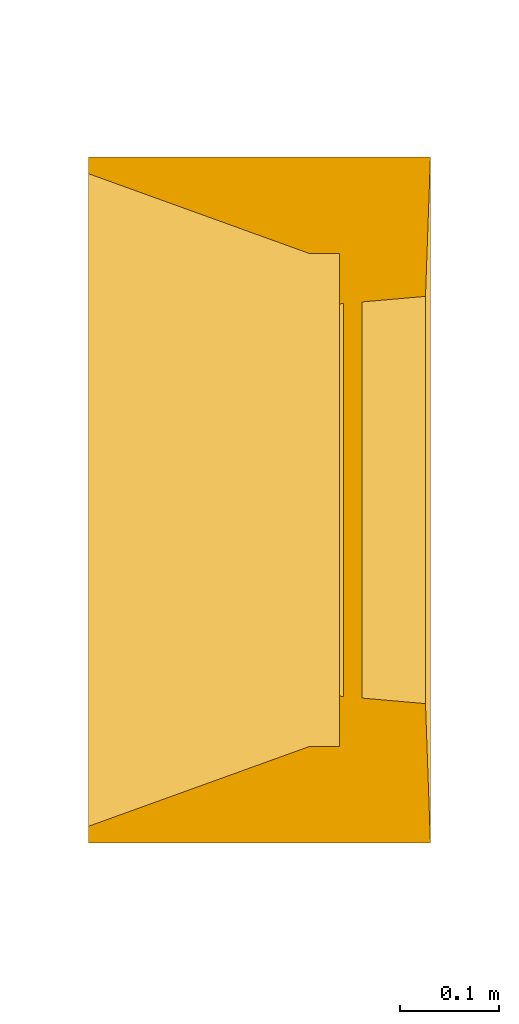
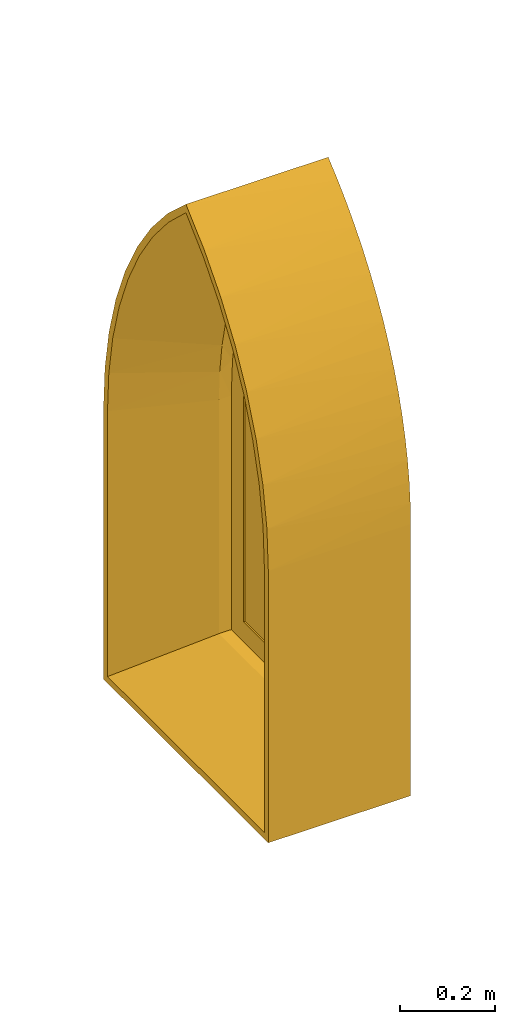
# One storey, part 5 of 6: 1 window.
"""IFC2X3 building model written with IfcOpenShell, lengths in metres."""

from ifc_helpers import new_model, entity, si_unit, converted_unit, derived_unit, direction, frame, origin, place, context, subcontext, project, spatial, faceted_brep, source, transform, mapped, material, material_list, type_object, type_shapes, element, save


model = new_model("IFC2X3")

# Units and contexts
model_context = context("Model", 3, precision=1e-05, world=origin(), true_north=direction((6.12303176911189e-17, 1.0)))
plan_context = context("Plan", 3, precision=1e-05, world=origin(), true_north=direction((6.12303176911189e-17, 1.0)))
body_context = subcontext(model_context, "Body", "Model", "MODEL_VIEW")
ifc_project = project(units=[si_unit("LENGTHUNIT", "METRE"), si_unit("AREAUNIT", "SQUARE_METRE"), si_unit("VOLUMEUNIT", "CUBIC_METRE"), converted_unit("PLANEANGLEUNIT", "DEGREE", entity("IfcRatioMeasure", 0.0174532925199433), si_unit("PLANEANGLEUNIT", "RADIAN"), dimensions=[0, 0, 0, 0, 0, 0, 0]), si_unit("MASSUNIT", "GRAM", prefix="KILO"), derived_unit("MASSDENSITYUNIT", [(si_unit("MASSUNIT", "GRAM", prefix="KILO"), 1), (si_unit("LENGTHUNIT", "METRE"), -3)]), derived_unit("MOMENTOFINERTIAUNIT", [(si_unit("LENGTHUNIT", "METRE"), 4)]), si_unit("TIMEUNIT", "SECOND"), si_unit("FREQUENCYUNIT", "HERTZ"), si_unit("THERMODYNAMICTEMPERATUREUNIT", "DEGREE_CELSIUS"), derived_unit("THERMALTRANSMITTANCEUNIT", [(si_unit("MASSUNIT", "GRAM", prefix="KILO"), 1), (si_unit("THERMODYNAMICTEMPERATUREUNIT", "KELVIN"), -1), (si_unit("TIMEUNIT", "SECOND"), -3)]), derived_unit("VOLUMETRICFLOWRATEUNIT", [(si_unit("LENGTHUNIT", "METRE"), 3), (si_unit("TIMEUNIT", "SECOND"), -1)]), derived_unit("MASSFLOWRATEUNIT", [(si_unit("MASSUNIT", "GRAM", prefix="KILO"), 1), (si_unit("TIMEUNIT", "SECOND"), -1)]), derived_unit("ROTATIONALFREQUENCYUNIT", [(si_unit("TIMEUNIT", "SECOND"), -1)]), si_unit("ELECTRICCURRENTUNIT", "AMPERE"), si_unit("ELECTRICVOLTAGEUNIT", "VOLT"), si_unit("POWERUNIT", "WATT"), si_unit("FORCEUNIT", "NEWTON", prefix="KILO"), si_unit("ILLUMINANCEUNIT", "LUX"), si_unit("LUMINOUSFLUXUNIT", "LUMEN"), si_unit("LUMINOUSINTENSITYUNIT", "CANDELA"), derived_unit("USERDEFINED", [(si_unit("MASSUNIT", "GRAM", prefix="KILO"), -1), (si_unit("LENGTHUNIT", "METRE"), -2), (si_unit("TIMEUNIT", "SECOND"), 3), (si_unit("LUMINOUSFLUXUNIT", "LUMEN"), 1)]), derived_unit("SOUNDPOWERUNIT", [(si_unit("MASSUNIT", "GRAM", prefix="KILO"), 1), (si_unit("LENGTHUNIT", "METRE"), 2), (si_unit("TIMEUNIT", "SECOND"), -3)]), derived_unit("SOUNDPRESSUREUNIT", [(si_unit("MASSUNIT", "GRAM", prefix="KILO"), 1), (si_unit("LENGTHUNIT", "METRE"), -1), (si_unit("TIMEUNIT", "SECOND"), -2)]), derived_unit("LINEARVELOCITYUNIT", [(si_unit("LENGTHUNIT", "METRE"), 1), (si_unit("TIMEUNIT", "SECOND"), -1)]), si_unit("PRESSUREUNIT", "PASCAL"), derived_unit("USERDEFINED", [(si_unit("LENGTHUNIT", "METRE"), -2), (si_unit("MASSUNIT", "GRAM", prefix="KILO"), 1), (si_unit("TIMEUNIT", "SECOND"), -2)]), derived_unit("LINEARFORCEUNIT", [(si_unit("MASSUNIT", "GRAM", prefix="KILO"), 1), (si_unit("LENGTHUNIT", "METRE"), 1), (si_unit("TIMEUNIT", "SECOND"), -2), (si_unit("LENGTHUNIT", "METRE"), -1)]), derived_unit("PLANARFORCEUNIT", [(si_unit("MASSUNIT", "GRAM", prefix="KILO"), 1), (si_unit("LENGTHUNIT", "METRE"), 1), (si_unit("TIMEUNIT", "SECOND"), -2), (si_unit("LENGTHUNIT", "METRE"), -2)])], contexts=[model_context, plan_context])

# Site, building, storey
site_placement = place(None, frame((-11.0823275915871, 23.8300534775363, 0.0)))
site = spatial("IfcSite", under=ifc_project, at=site_placement, Name="Default", CompositionType="ELEMENT")
building_placement = place(site_placement, origin())
building = spatial("IfcBuilding", under=site, at=building_placement, Name="Englische Kirche", CompositionType="ELEMENT")
storey_placement = place(building_placement, origin())
storey = spatial("IfcBuildingStorey", under=building, at=storey_placement, Name="Ebene 0 Nave FFL Phase 1 1864", CompositionType="ELEMENT", Elevation=0.0)

# Window
ifc_material_1 = material(Name="Glas - Stained - Pulpit")
ifc_material_2 = material(Name="Default")
ifc_material_list_1 = material_list([ifc_material_1, ifc_material_2])
ifc_material_list_2 = material_list([ifc_material_1, ifc_material_2])
window_style = type_object("IfcWindowStyle", Name="Arched_Window_window_family_pulpit:Arched_Window_stained_pulpit", ConstructionType="NOTDEFINED", OperationType="NOTDEFINED", ParameterTakesPrecedence=False, Sizeable=False, material=ifc_material_list_2)
shared_shape = source(origin(), body_context, "Body", "Brep", [
    faceted_brep([(0.639287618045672, 0.224475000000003, 0.793732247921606), (0.624604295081, 0.224475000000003, 0.886437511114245), (0.600310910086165, 0.224475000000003, 0.977100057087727), (0.566673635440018, 0.224475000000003, 1.06472653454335), (0.524061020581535, 0.224475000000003, 1.14835685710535), (0.472939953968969, 0.224475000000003, 1.2270747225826), (0.413870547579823, 0.224475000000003, 1.30001765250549), (0.347500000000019, 0.224475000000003, 1.36638644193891), (0.281129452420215, 0.224475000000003, 1.30001765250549), (0.222060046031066, 0.224475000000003, 1.2270747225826), (0.170938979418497, 0.224475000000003, 1.14835685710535), (0.128326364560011, 0.224475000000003, 1.06472653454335), (0.0946890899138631, 0.224475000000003, 0.97710005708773), (0.0703957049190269, 0.224475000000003, 0.886437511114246), (0.055712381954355, 0.224475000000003, 0.793732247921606), (0.0508000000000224, 0.224475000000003, 0.700000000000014), (0.0508000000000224, 0.224475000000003, 0.0508000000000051), (0.644200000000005, 0.224475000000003, 0.0508000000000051), (0.644200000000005, 0.224475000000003, 0.700000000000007), (0.644200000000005, 0.243524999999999, 0.0508000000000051), (0.0508000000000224, 0.243524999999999, 0.0508000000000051), (0.0508000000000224, 0.243524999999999, 0.700000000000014), (0.644200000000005, 0.243524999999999, 0.700000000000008), (0.624604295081, 0.243524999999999, 0.886437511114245), (0.639287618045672, 0.243524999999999, 0.793732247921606), (0.055712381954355, 0.243524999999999, 0.793732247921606), (0.0703957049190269, 0.243524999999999, 0.886437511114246), (0.0946890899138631, 0.243524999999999, 0.97710005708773), (0.128326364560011, 0.243524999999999, 1.06472653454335), (0.170938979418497, 0.243524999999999, 1.14835685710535), (0.222060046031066, 0.243524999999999, 1.2270747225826), (0.281129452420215, 0.243524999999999, 1.30001765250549), (0.347500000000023, 0.243524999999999, 1.36638644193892), (0.413870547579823, 0.243524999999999, 1.30001765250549), (0.472939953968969, 0.243524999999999, 1.2270747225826), (0.524061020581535, 0.243524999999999, 1.14835685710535), (0.566673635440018, 0.243524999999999, 1.06472653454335), (0.600310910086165, 0.243524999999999, 0.977100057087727)], [[[0, 1, 2, 3, 4, 5, 6, 7, 8, 9, 10, 11, 12, 13, 14, 15, 16, 17, 18]], [[19, 17, 16, 20]], [[20, 16, 15, 21]], [[22, 18, 17, 19]], [[23, 24, 22, 19, 20, 21, 25, 26, 27, 28, 29, 30, 31, 32, 33, 34, 35, 36, 37]], [[26, 25, 14, 13]], [[27, 26, 13, 12]], [[28, 27, 12, 11]], [[15, 14, 25, 21]], [[30, 29, 10, 9]], [[31, 30, 9, 8]], [[32, 31, 8, 7]], [[10, 29, 28, 11]], [[34, 33, 6, 5]], [[35, 34, 5, 4]], [[36, 35, 4, 3]], [[7, 6, 33, 32]], [[23, 37, 2, 1]], [[24, 23, 1, 0]], [[22, 24, 0, 18]], [[2, 37, 36, 3]]]),
    faceted_brep([(0.656333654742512, -0.034, 0.900911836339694), (0.671900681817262, -0.034, 0.907941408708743), (0.629148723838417, -0.034, 0.998395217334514), (0.689207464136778, -0.034, 0.804610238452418), (0.672774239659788, -0.034, 0.801053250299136), (0.694999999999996, -0.034, 0.700000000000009), (0.678276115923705, -0.034, 0.700000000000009), (0.67827611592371, -0.034, 0.0167238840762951), (0.695000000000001, -0.034, 0.0), (0.0, -0.034, 0.0), (0.016723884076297, -0.034, 0.0167238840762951), (0.0, -0.034, 0.700000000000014), (0.0167238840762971, -0.034, 0.700000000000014), (0.0222257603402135, -0.034, 0.801053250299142), (0.00579253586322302, -0.034, 0.804610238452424), (0.0386663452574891, -0.034, 0.900911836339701), (0.0230993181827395, -0.034, 0.90794140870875), (0.0658512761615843, -0.034, 0.998395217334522), (0.0517087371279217, -0.034, 1.00873008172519), (0.103459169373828, -0.034, 1.09235093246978), (0.0912709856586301, -0.034, 1.10574391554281), (0.151045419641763, -0.034, 1.18166822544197), (0.141302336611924, -0.034, 1.1977967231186), (0.208047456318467, -0.034, 1.26529117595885), (0.201191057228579, -0.034, 1.28376297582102), (0.273791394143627, -0.034, 1.34223118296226), (0.270204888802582, -0.034, 1.36259156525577), (0.347500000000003, -0.034, 1.41157865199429), (0.347499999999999, -0.034, 1.43331865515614), (0.42479511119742, -0.034, 1.36259156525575), (0.421208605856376, -0.034, 1.34223118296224), (0.493808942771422, -0.034, 1.28376297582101), (0.486952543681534, -0.034, 1.26529117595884), (0.553697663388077, -0.034, 1.19779672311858), (0.543954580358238, -0.034, 1.18166822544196), (0.603729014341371, -0.034, 1.1057439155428), (0.591540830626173, -0.034, 1.09235093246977), (0.643291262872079, -0.034, 1.00873008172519), (0.0978488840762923, 0.190524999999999, 0.0978488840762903), (0.0978488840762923, 0.190524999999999, 0.700000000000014), (0.597151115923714, 0.190524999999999, 0.0978488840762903), (0.597151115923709, 0.190524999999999, 0.700000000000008), (0.695000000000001, 0.312600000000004, 0.0), (0.694999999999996, 0.312600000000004, 0.700000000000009), (0.0, 0.312600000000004, 0.0), (0.0, 0.312600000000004, 0.700000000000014), (0.591790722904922, 0.220524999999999, 0.795290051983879), (0.57577718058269, 0.220524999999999, 0.889377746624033), (0.540506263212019, 0.220524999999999, 0.795751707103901), (0.546266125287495, 0.220524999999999, 0.700000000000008), (0.59715111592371, 0.220524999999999, 0.700000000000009), (0.523309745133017, 0.220524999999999, 0.890122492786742), (0.549312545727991, 0.220524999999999, 0.981075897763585), (0.494924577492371, 0.220524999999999, 0.981751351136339), (0.512730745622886, 0.220524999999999, 1.06922747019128), (0.455760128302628, 0.220524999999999, 1.06931682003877), (0.466493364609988, 0.220524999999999, 1.15272017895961), (0.40638122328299, 0.220524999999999, 1.15155603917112), (0.411183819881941, 0.220524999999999, 1.23050052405), (0.347500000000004, 0.220524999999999, 1.22728296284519), (0.3475, 0.220524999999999, 1.30158708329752), (0.283816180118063, 0.220524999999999, 1.23050052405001), (0.288618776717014, 0.220524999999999, 1.15155603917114), (0.228506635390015, 0.220524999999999, 1.15272017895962), (0.239239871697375, 0.220524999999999, 1.06931682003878), (0.182269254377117, 0.220524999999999, 1.06922747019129), (0.200075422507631, 0.220524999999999, 0.98175135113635), (0.14568745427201, 0.220524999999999, 0.981075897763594), (0.171690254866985, 0.220524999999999, 0.890122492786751), (0.119222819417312, 0.220524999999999, 0.889377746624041), (0.154493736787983, 0.220524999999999, 0.795751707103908), (0.10320927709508, 0.220524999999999, 0.795290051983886), (0.148733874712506, 0.220524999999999, 0.700000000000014), (0.0978488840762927, 0.220524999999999, 0.700000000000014), (0.148733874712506, 0.220524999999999, 0.148733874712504), (0.0978488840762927, 0.220524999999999, 0.0978488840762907), (0.546266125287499, 0.220524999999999, 0.148733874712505), (0.597151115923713, 0.220524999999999, 0.0978488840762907), (0.141109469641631, 0.307672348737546, 0.141109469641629), (0.141109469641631, 0.307672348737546, 0.700000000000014), (0.553890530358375, 0.307672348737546, 0.141109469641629), (0.553890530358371, 0.307672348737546, 0.700000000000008), (0.693550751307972, 0.312600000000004, 0.752385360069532), (0.547902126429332, 0.307672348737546, 0.798092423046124), (0.68920743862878, 0.312600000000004, 0.804610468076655), (0.500527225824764, 0.307672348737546, 0.988471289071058), (0.603728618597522, 0.312600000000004, 1.10574475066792), (0.624851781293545, 0.312600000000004, 1.05778499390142), (0.68198334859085, 0.312600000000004, 0.856515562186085), (0.5300258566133, 0.307672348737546, 0.894727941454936), (0.67190058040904, 0.312600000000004, 0.907941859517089), (0.64329103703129, 0.312600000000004, 1.00873073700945), (0.658989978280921, 0.312600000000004, 0.958732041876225), (0.45984435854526, 0.307672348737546, 1.07793015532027), (0.493808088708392, 0.312600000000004, 1.2837640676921), (0.524941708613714, 0.312600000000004, 1.241609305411), (0.347500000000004, 0.309230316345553, 1.30349756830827), (0.460391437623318, 0.312600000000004, 1.32413303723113), (0.387124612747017, 0.312600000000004, 1.39902546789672), (0.424793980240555, 0.312600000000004, 1.36259272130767), (0.347500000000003, 0.310878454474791, 1.36840536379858), (0.347500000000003, 0.312600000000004, 1.43331865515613), (0.553697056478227, 0.312600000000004, 1.1977977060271), (0.579986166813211, 0.312600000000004, 1.15246329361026), (0.40858149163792, 0.307672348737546, 1.16177586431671), (0.347500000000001, 0.307672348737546, 1.23876310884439), (0.307874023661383, 0.312600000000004, 1.39902422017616), (0.234607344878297, 0.312600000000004, 1.32413164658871), (0.170057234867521, 0.312600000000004, 1.24160778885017), (0.201190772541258, 0.312600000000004, 1.28376261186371), (0.115012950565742, 0.312600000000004, 1.15246166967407), (0.270204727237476, 0.312600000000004, 1.36259140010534), (0.14130197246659, 0.312600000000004, 1.19779613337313), (0.0912705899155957, 0.312600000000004, 1.10574308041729), (0.0701475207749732, 0.312600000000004, 1.05778328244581), (0.0517083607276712, 0.312600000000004, 1.00872898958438), (0.0130163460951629, 0.312600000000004, 0.856513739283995), (0.0360095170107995, 0.312600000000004, 0.958730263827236), (0.00144914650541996, 0.312600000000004, 0.752383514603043), (0.0230990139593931, 0.312600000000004, 0.907940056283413), (0.00579235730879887, 0.312600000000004, 0.804608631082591), (0.235155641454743, 0.307672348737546, 1.07793015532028), (0.286418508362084, 0.307672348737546, 1.16177586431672), (0.164974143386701, 0.307672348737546, 0.894727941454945), (0.14709787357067, 0.307672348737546, 0.798092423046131), (0.194472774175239, 0.307672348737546, 0.988471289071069), (0.593907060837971, 0.190524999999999, 0.774176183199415), (0.517281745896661, 0.190524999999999, 1.05964299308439), (0.545740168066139, 0.190524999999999, 0.991066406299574), (0.584199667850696, 0.190524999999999, 0.847785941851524), (0.568103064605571, 0.190524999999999, 0.920267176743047), (0.482945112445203, 0.190524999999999, 1.1254732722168), (0.442992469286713, 0.190524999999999, 1.18805455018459), (0.347499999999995, 0.134725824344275, 1.32974088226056), (0.347500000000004, 0.190524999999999, 1.30158708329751), (0.397728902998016, 0.190524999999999, 1.24690894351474), (0.347499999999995, 0.0786870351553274, 1.35742467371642), (0.347499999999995, 0.0224390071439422, 1.38468855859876), (0.297271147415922, 0.190524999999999, 1.24690900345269), (0.212054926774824, 0.190524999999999, 1.12547334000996), (0.177718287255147, 0.190524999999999, 1.05964306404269), (0.252007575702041, 0.190524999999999, 1.18805461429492), (0.149259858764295, 0.190524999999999, 0.991066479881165), (0.126896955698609, 0.190524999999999, 0.920267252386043), (0.110800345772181, 0.190524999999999, 0.847786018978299), (0.101092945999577, 0.190524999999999, 0.774176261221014), (0.347499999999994, 0.264096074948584, 1.23303996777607)], [[[0, 1, 2]], [[0, 3, 1]], [[4, 3, 0]], [[5, 3, 4]], [[4, 6, 5]], [[6, 7, 5]], [[8, 5, 7]], [[7, 9, 8]], [[7, 10, 9]], [[11, 9, 10]], [[12, 11, 10]], [[12, 13, 11]], [[11, 13, 14]], [[13, 15, 14]], [[14, 15, 16]], [[16, 15, 17]], [[17, 18, 16]], [[18, 17, 19]], [[19, 20, 18]], [[19, 21, 20]], [[20, 21, 22]], [[23, 22, 21]], [[22, 23, 24]], [[23, 25, 24]], [[25, 26, 24]], [[26, 25, 27]], [[27, 28, 26]], [[28, 27, 29]], [[29, 27, 30]], [[31, 29, 30]], [[30, 32, 31]], [[31, 32, 33]], [[34, 33, 32]], [[33, 34, 35]], [[36, 35, 34]], [[37, 36, 2]], [[36, 37, 35]], [[1, 37, 2]], [[38, 39, 12, 10]], [[40, 38, 10, 7]], [[6, 41, 40, 7]], [[5, 8, 42, 43]], [[8, 9, 44, 42]], [[9, 11, 45, 44]], [[46, 47, 48]], [[49, 46, 48]], [[46, 49, 50]], [[47, 51, 48]], [[52, 51, 47]], [[53, 51, 52]], [[52, 54, 53]], [[53, 54, 55]], [[56, 55, 54]], [[57, 55, 56]], [[56, 58, 57]], [[58, 59, 57]], [[60, 59, 58]], [[59, 60, 61]], [[61, 62, 59]], [[62, 61, 63]], [[63, 64, 62]], [[64, 63, 65]], [[65, 66, 64]], [[67, 66, 65]], [[68, 66, 67]], [[69, 68, 67]], [[70, 68, 69]], [[71, 70, 69]], [[72, 70, 71]], [[71, 73, 72]], [[72, 73, 74]], [[75, 74, 73]], [[74, 75, 76]], [[77, 76, 75]], [[77, 50, 76]], [[50, 49, 76]], [[74, 78, 79, 72]], [[80, 78, 74, 76]], [[81, 80, 76, 49]], [[50, 77, 40, 41]], [[40, 77, 75, 38]], [[38, 75, 73, 39]], [[78, 44, 45, 79]], [[80, 42, 44, 78]], [[43, 42, 80, 81]], [[82, 43, 81]], [[82, 83, 84]], [[85, 86, 87]], [[88, 84, 83]], [[81, 83, 82]], [[89, 90, 88]], [[83, 89, 88]], [[89, 91, 92]], [[91, 89, 85]], [[85, 87, 91]], [[90, 89, 92]], [[85, 93, 86]], [[94, 95, 96]], [[94, 96, 97]], [[98, 99, 100]], [[100, 99, 97]], [[101, 98, 100]], [[102, 103, 93]], [[86, 93, 103]], [[104, 102, 93]], [[95, 102, 104]], [[96, 104, 105]], [[104, 96, 95]], [[96, 100, 97]], [[5, 82, 3]], [[3, 88, 1]], [[1, 92, 37]], [[90, 92, 1]], [[35, 37, 87]], [[1, 88, 90]], [[43, 82, 5]], [[84, 3, 82]], [[37, 91, 87]], [[91, 37, 92]], [[88, 3, 84]], [[87, 86, 35]], [[86, 103, 35]], [[33, 35, 103]], [[33, 103, 102]], [[29, 31, 97]], [[95, 31, 33]], [[28, 29, 98]], [[102, 95, 33]], [[95, 94, 31]], [[94, 97, 31]], [[97, 99, 29]], [[29, 99, 98]], [[98, 101, 28]], [[28, 106, 26]], [[26, 107, 24]], [[24, 108, 22]], [[109, 108, 24]], [[20, 22, 110]], [[24, 107, 109]], [[101, 106, 28]], [[111, 26, 106]], [[22, 112, 110]], [[112, 22, 108]], [[107, 26, 111]], [[110, 113, 20]], [[113, 114, 20]], [[18, 20, 114]], [[18, 114, 115]], [[14, 16, 116]], [[117, 16, 18]], [[11, 14, 118]], [[115, 117, 18]], [[117, 119, 16]], [[119, 116, 16]], [[116, 120, 14]], [[14, 120, 118]], [[118, 45, 11]], [[106, 101, 100]], [[106, 100, 111]], [[121, 110, 112]], [[107, 111, 100]], [[105, 122, 96]], [[107, 100, 96]], [[96, 122, 108]], [[112, 108, 122]], [[122, 121, 112]], [[109, 96, 108]], [[96, 109, 107]], [[121, 113, 110]], [[119, 117, 123]], [[119, 123, 116]], [[118, 120, 124]], [[124, 120, 116]], [[45, 118, 79]], [[125, 114, 113]], [[115, 114, 125]], [[121, 125, 113]], [[125, 123, 115]], [[123, 117, 115]], [[124, 116, 123]], [[124, 79, 118]], [[126, 41, 6]], [[36, 127, 128]], [[129, 126, 4]], [[4, 126, 6]], [[0, 129, 4]], [[130, 2, 128]], [[36, 128, 2]], [[0, 2, 130]], [[129, 0, 130]], [[36, 131, 127]], [[132, 131, 34]], [[133, 134, 135]], [[32, 135, 132]], [[135, 32, 133]], [[30, 136, 32]], [[132, 34, 32]], [[30, 27, 137]], [[136, 30, 137]], [[32, 136, 133]], [[36, 34, 131]], [[41, 126, 50]], [[126, 129, 46]], [[50, 126, 46]], [[47, 130, 52]], [[47, 46, 129]], [[52, 130, 128]], [[130, 47, 129]], [[128, 54, 52]], [[56, 131, 132]], [[58, 132, 135]], [[60, 135, 134]], [[127, 54, 128]], [[127, 131, 54]], [[54, 131, 56]], [[56, 132, 58]], [[135, 60, 58]], [[134, 138, 60]], [[139, 140, 65]], [[60, 138, 61]], [[139, 63, 141]], [[63, 139, 65]], [[141, 63, 61]], [[138, 141, 61]], [[140, 142, 65]], [[69, 143, 144]], [[71, 144, 145]], [[73, 145, 39]], [[142, 67, 65]], [[142, 143, 67]], [[67, 143, 69]], [[69, 144, 71]], [[145, 73, 71]], [[138, 134, 133]], [[141, 138, 23]], [[23, 138, 133]], [[139, 141, 21]], [[137, 27, 25]], [[136, 137, 25]], [[136, 25, 23]], [[133, 136, 23]], [[23, 21, 141]], [[21, 19, 139]], [[143, 142, 17]], [[145, 144, 13]], [[15, 144, 143]], [[39, 145, 12]], [[140, 19, 142]], [[19, 17, 142]], [[139, 19, 140]], [[143, 17, 15]], [[15, 13, 144]], [[13, 12, 145]], [[51, 89, 83]], [[48, 83, 81]], [[48, 81, 49]], [[89, 51, 53]], [[48, 51, 83]], [[53, 85, 89]], [[93, 85, 55]], [[146, 104, 93]], [[104, 146, 105]], [[57, 93, 55]], [[57, 59, 146]], [[57, 146, 93]], [[53, 55, 85]], [[146, 121, 122]], [[146, 122, 105]], [[62, 146, 59]], [[121, 146, 62]], [[62, 64, 121]], [[64, 125, 121]], [[123, 125, 66]], [[124, 123, 68]], [[79, 124, 70]], [[68, 123, 66]], [[70, 124, 68]], [[70, 72, 79]], [[64, 66, 125]]]),
])
type_shapes(window_style, [shared_shape])
placement_1 = place(storey_placement, frame((20.3811330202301, -0.0700190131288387, 0.0), z_axis=(0.0, 0.0, 1.0), x_axis=(0.0, 1.0, 0.0)))
placement_2 = place(placement_1, frame((8.7367577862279, 0.233999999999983, 1.0)))
window_placement = place(placement_2, frame((0.0, 0.0, 0.0), z_axis=(0.0, 0.0, 1.0), x_axis=(-1.0, 0.0, 0.0)))
element("IfcWindow", 1, at=window_placement, inside=storey, type_object=window_style, material=ifc_material_list_1, Name="Arched_Window_window_family_pulpit:Arched_Window_stained_pulpit", ObjectType="Arched_Window_window_family_pulpit:Arched_Window_stained_pulpit", OverallHeight=1.43331865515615, OverallWidth=0.695000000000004, context=body_context, shape_type="MappedRepresentation", body=[
    mapped(shared_shape, transform((0.0, 0.0, 0.0), scale=1.0)),
])

save(model, "model.ifc")
